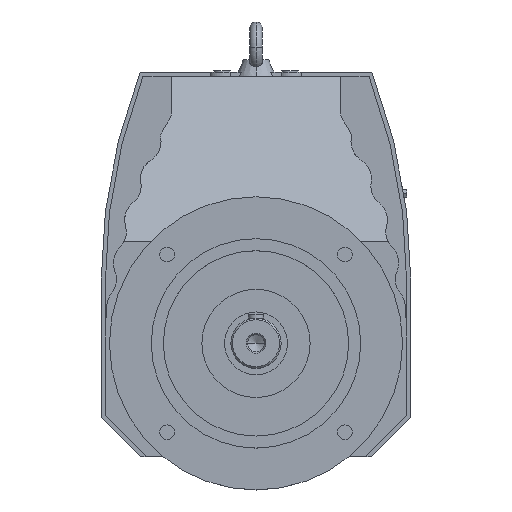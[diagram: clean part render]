
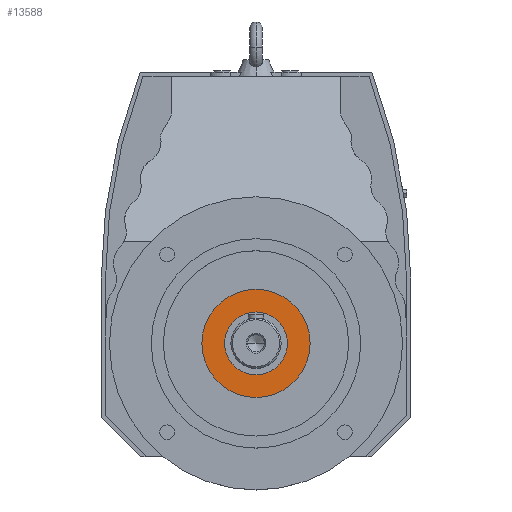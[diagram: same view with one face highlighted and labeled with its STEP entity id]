
A CAD part, top view. The second image highlights one B-rep face of the part: STEP entity #13588.
In plain terms, the highlighted planar face has unit normal (0, 0, 1).
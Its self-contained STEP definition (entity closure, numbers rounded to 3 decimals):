
#13437 = CYLINDRICAL_SURFACE('',#13438,64.581);
#13438 = AXIS2_PLACEMENT_3D('',#13439,#13440,#13441);
#13439 = CARTESIAN_POINT('',(0.,-130.,364.));
#13440 = DIRECTION('',(0.,0.,1.));
#13441 = DIRECTION('',(1.,0.,0.));
#13467 = CYLINDRICAL_SURFACE('',#13468,64.581);
#13468 = AXIS2_PLACEMENT_3D('',#13469,#13470,#13471);
#13469 = CARTESIAN_POINT('',(0.,-130.,364.));
#13470 = DIRECTION('',(0.,0.,1.));
#13471 = DIRECTION('',(1.,0.,0.));
#13486 = VERTEX_POINT('',#13487);
#13487 = CARTESIAN_POINT('',(-64.581,-130.,231.5));
#13508 = VERTEX_POINT('',#13509);
#13509 = CARTESIAN_POINT('',(64.581,-130.,231.5));
#13528 = EDGE_CURVE('',#13508,#13486,#13529,.T.);
#13529 = SURFACE_CURVE('',#13530,(#13535,#13541),.PCURVE_S1.);
#13530 = CIRCLE('',#13531,64.581);
#13531 = AXIS2_PLACEMENT_3D('',#13532,#13533,#13534);
#13532 = CARTESIAN_POINT('',(0.,-130.,231.5));
#13533 = DIRECTION('',(0.,0.,1.));
#13534 = DIRECTION('',(1.,0.,0.));
#13535 = PCURVE('',#13437,#13536);
#13536 = DEFINITIONAL_REPRESENTATION('',(#13537),#13540);
#13537 = B_SPLINE_CURVE_WITH_KNOTS('',1,(#13538,#13539),.UNSPECIFIED.,
  .F.,.F.,(2,2),(0.,3.142),.PIECEWISE_BEZIER_KNOTS.);
#13538 = CARTESIAN_POINT('',(0.,-132.5));
#13539 = CARTESIAN_POINT('',(3.142,-132.5));
#13540 = ( GEOMETRIC_REPRESENTATION_CONTEXT(2) 
PARAMETRIC_REPRESENTATION_CONTEXT() REPRESENTATION_CONTEXT('2D SPACE',''
  ) );
#13541 = PCURVE('',#13542,#13547);
#13542 = PLANE('',#13543);
#13543 = AXIS2_PLACEMENT_3D('',#13544,#13545,#13546);
#13544 = CARTESIAN_POINT('',(0.,-92.5,231.5));
#13545 = DIRECTION('',(0.,0.,-1.));
#13546 = DIRECTION('',(-1.,0.,0.));
#13547 = DEFINITIONAL_REPRESENTATION('',(#13548),#13556);
#13548 = ( BOUNDED_CURVE() B_SPLINE_CURVE(2,(#13549,#13550,#13551,#13552
    ,#13553,#13554,#13555),.UNSPECIFIED.,.T.,.F.) 
B_SPLINE_CURVE_WITH_KNOTS((1,2,2,2,2,1),(-2.094,0.,
    2.094,4.189,6.283,8.378),
.UNSPECIFIED.) CURVE() GEOMETRIC_REPRESENTATION_ITEM() 
RATIONAL_B_SPLINE_CURVE((1.,0.5,1.,0.5,1.,0.5,1.)) REPRESENTATION_ITEM(
  '') );
#13549 = CARTESIAN_POINT('',(-64.581,-37.5));
#13550 = CARTESIAN_POINT('',(-64.581,74.357));
#13551 = CARTESIAN_POINT('',(32.29,18.429));
#13552 = CARTESIAN_POINT('',(129.162,-37.5));
#13553 = CARTESIAN_POINT('',(32.29,-93.429));
#13554 = CARTESIAN_POINT('',(-64.581,-149.357));
#13555 = CARTESIAN_POINT('',(-64.581,-37.5));
#13556 = ( GEOMETRIC_REPRESENTATION_CONTEXT(2) 
PARAMETRIC_REPRESENTATION_CONTEXT() REPRESENTATION_CONTEXT('2D SPACE',''
  ) );
#13561 = EDGE_CURVE('',#13486,#13508,#13562,.T.);
#13562 = SURFACE_CURVE('',#13563,(#13568,#13574),.PCURVE_S1.);
#13563 = CIRCLE('',#13564,64.581);
#13564 = AXIS2_PLACEMENT_3D('',#13565,#13566,#13567);
#13565 = CARTESIAN_POINT('',(0.,-130.,231.5));
#13566 = DIRECTION('',(0.,0.,1.));
#13567 = DIRECTION('',(1.,0.,0.));
#13568 = PCURVE('',#13467,#13569);
#13569 = DEFINITIONAL_REPRESENTATION('',(#13570),#13573);
#13570 = B_SPLINE_CURVE_WITH_KNOTS('',1,(#13571,#13572),.UNSPECIFIED.,
  .F.,.F.,(2,2),(3.142,6.283),.PIECEWISE_BEZIER_KNOTS.);
#13571 = CARTESIAN_POINT('',(3.142,-132.5));
#13572 = CARTESIAN_POINT('',(6.283,-132.5));
#13573 = ( GEOMETRIC_REPRESENTATION_CONTEXT(2) 
PARAMETRIC_REPRESENTATION_CONTEXT() REPRESENTATION_CONTEXT('2D SPACE',''
  ) );
#13574 = PCURVE('',#13542,#13575);
#13575 = DEFINITIONAL_REPRESENTATION('',(#13576),#13584);
#13576 = ( BOUNDED_CURVE() B_SPLINE_CURVE(2,(#13577,#13578,#13579,#13580
    ,#13581,#13582,#13583),.UNSPECIFIED.,.T.,.F.) 
B_SPLINE_CURVE_WITH_KNOTS((1,2,2,2,2,1),(-2.094,0.,
    2.094,4.189,6.283,8.378),
.UNSPECIFIED.) CURVE() GEOMETRIC_REPRESENTATION_ITEM() 
RATIONAL_B_SPLINE_CURVE((1.,0.5,1.,0.5,1.,0.5,1.)) REPRESENTATION_ITEM(
  '') );
#13577 = CARTESIAN_POINT('',(-64.581,-37.5));
#13578 = CARTESIAN_POINT('',(-64.581,74.357));
#13579 = CARTESIAN_POINT('',(32.29,18.429));
#13580 = CARTESIAN_POINT('',(129.162,-37.5));
#13581 = CARTESIAN_POINT('',(32.29,-93.429));
#13582 = CARTESIAN_POINT('',(-64.581,-149.357));
#13583 = CARTESIAN_POINT('',(-64.581,-37.5));
#13584 = ( GEOMETRIC_REPRESENTATION_CONTEXT(2) 
PARAMETRIC_REPRESENTATION_CONTEXT() REPRESENTATION_CONTEXT('2D SPACE',''
  ) );
#13588 = ADVANCED_FACE('',(#13589,#13655),#13542,.F.);
#13589 = FACE_BOUND('',#13590,.T.);
#13590 = EDGE_LOOP('',(#13591,#13625));
#13591 = ORIENTED_EDGE('',*,*,#13592,.F.);
#13592 = EDGE_CURVE('',#13593,#13595,#13597,.T.);
#13593 = VERTEX_POINT('',#13594);
#13594 = CARTESIAN_POINT('',(37.5,-130.,231.5));
#13595 = VERTEX_POINT('',#13596);
#13596 = CARTESIAN_POINT('',(-37.5,-130.,231.5));
#13597 = SURFACE_CURVE('',#13598,(#13603,#13614),.PCURVE_S1.);
#13598 = CIRCLE('',#13599,37.5);
#13599 = AXIS2_PLACEMENT_3D('',#13600,#13601,#13602);
#13600 = CARTESIAN_POINT('',(0.,-130.,231.5));
#13601 = DIRECTION('',(0.,0.,1.));
#13602 = DIRECTION('',(1.,0.,0.));
#13603 = PCURVE('',#13542,#13604);
#13604 = DEFINITIONAL_REPRESENTATION('',(#13605),#13613);
#13605 = ( BOUNDED_CURVE() B_SPLINE_CURVE(2,(#13606,#13607,#13608,#13609
    ,#13610,#13611,#13612),.UNSPECIFIED.,.T.,.F.) 
B_SPLINE_CURVE_WITH_KNOTS((1,2,2,2,2,1),(-2.094,0.,
    2.094,4.189,6.283,8.378),
.UNSPECIFIED.) CURVE() GEOMETRIC_REPRESENTATION_ITEM() 
RATIONAL_B_SPLINE_CURVE((1.,0.5,1.,0.5,1.,0.5,1.)) REPRESENTATION_ITEM(
  '') );
#13606 = CARTESIAN_POINT('',(-37.5,-37.5));
#13607 = CARTESIAN_POINT('',(-37.5,27.452));
#13608 = CARTESIAN_POINT('',(18.75,-5.024));
#13609 = CARTESIAN_POINT('',(75.,-37.5));
#13610 = CARTESIAN_POINT('',(18.75,-69.976));
#13611 = CARTESIAN_POINT('',(-37.5,-102.452));
#13612 = CARTESIAN_POINT('',(-37.5,-37.5));
#13613 = ( GEOMETRIC_REPRESENTATION_CONTEXT(2) 
PARAMETRIC_REPRESENTATION_CONTEXT() REPRESENTATION_CONTEXT('2D SPACE',''
  ) );
#13614 = PCURVE('',#13615,#13620);
#13615 = CYLINDRICAL_SURFACE('',#13616,37.5);
#13616 = AXIS2_PLACEMENT_3D('',#13617,#13618,#13619);
#13617 = CARTESIAN_POINT('',(0.,-130.,364.));
#13618 = DIRECTION('',(0.,0.,1.));
#13619 = DIRECTION('',(1.,0.,0.));
#13620 = DEFINITIONAL_REPRESENTATION('',(#13621),#13624);
#13621 = B_SPLINE_CURVE_WITH_KNOTS('',1,(#13622,#13623),.UNSPECIFIED.,
  .F.,.F.,(2,2),(0.,3.142),.PIECEWISE_BEZIER_KNOTS.);
#13622 = CARTESIAN_POINT('',(0.,-132.5));
#13623 = CARTESIAN_POINT('',(3.142,-132.5));
#13624 = ( GEOMETRIC_REPRESENTATION_CONTEXT(2) 
PARAMETRIC_REPRESENTATION_CONTEXT() REPRESENTATION_CONTEXT('2D SPACE',''
  ) );
#13625 = ORIENTED_EDGE('',*,*,#13626,.F.);
#13626 = EDGE_CURVE('',#13595,#13593,#13627,.T.);
#13627 = SURFACE_CURVE('',#13628,(#13633,#13644),.PCURVE_S1.);
#13628 = CIRCLE('',#13629,37.5);
#13629 = AXIS2_PLACEMENT_3D('',#13630,#13631,#13632);
#13630 = CARTESIAN_POINT('',(0.,-130.,231.5));
#13631 = DIRECTION('',(0.,0.,1.));
#13632 = DIRECTION('',(1.,0.,0.));
#13633 = PCURVE('',#13542,#13634);
#13634 = DEFINITIONAL_REPRESENTATION('',(#13635),#13643);
#13635 = ( BOUNDED_CURVE() B_SPLINE_CURVE(2,(#13636,#13637,#13638,#13639
    ,#13640,#13641,#13642),.UNSPECIFIED.,.T.,.F.) 
B_SPLINE_CURVE_WITH_KNOTS((1,2,2,2,2,1),(-2.094,0.,
    2.094,4.189,6.283,8.378),
.UNSPECIFIED.) CURVE() GEOMETRIC_REPRESENTATION_ITEM() 
RATIONAL_B_SPLINE_CURVE((1.,0.5,1.,0.5,1.,0.5,1.)) REPRESENTATION_ITEM(
  '') );
#13636 = CARTESIAN_POINT('',(-37.5,-37.5));
#13637 = CARTESIAN_POINT('',(-37.5,27.452));
#13638 = CARTESIAN_POINT('',(18.75,-5.024));
#13639 = CARTESIAN_POINT('',(75.,-37.5));
#13640 = CARTESIAN_POINT('',(18.75,-69.976));
#13641 = CARTESIAN_POINT('',(-37.5,-102.452));
#13642 = CARTESIAN_POINT('',(-37.5,-37.5));
#13643 = ( GEOMETRIC_REPRESENTATION_CONTEXT(2) 
PARAMETRIC_REPRESENTATION_CONTEXT() REPRESENTATION_CONTEXT('2D SPACE',''
  ) );
#13644 = PCURVE('',#13645,#13650);
#13645 = CYLINDRICAL_SURFACE('',#13646,37.5);
#13646 = AXIS2_PLACEMENT_3D('',#13647,#13648,#13649);
#13647 = CARTESIAN_POINT('',(0.,-130.,364.));
#13648 = DIRECTION('',(0.,0.,1.));
#13649 = DIRECTION('',(1.,0.,0.));
#13650 = DEFINITIONAL_REPRESENTATION('',(#13651),#13654);
#13651 = B_SPLINE_CURVE_WITH_KNOTS('',1,(#13652,#13653),.UNSPECIFIED.,
  .F.,.F.,(2,2),(3.142,6.283),.PIECEWISE_BEZIER_KNOTS.);
#13652 = CARTESIAN_POINT('',(3.142,-132.5));
#13653 = CARTESIAN_POINT('',(6.283,-132.5));
#13654 = ( GEOMETRIC_REPRESENTATION_CONTEXT(2) 
PARAMETRIC_REPRESENTATION_CONTEXT() REPRESENTATION_CONTEXT('2D SPACE',''
  ) );
#13655 = FACE_BOUND('',#13656,.T.);
#13656 = EDGE_LOOP('',(#13657,#13658));
#13657 = ORIENTED_EDGE('',*,*,#13528,.T.);
#13658 = ORIENTED_EDGE('',*,*,#13561,.T.);
